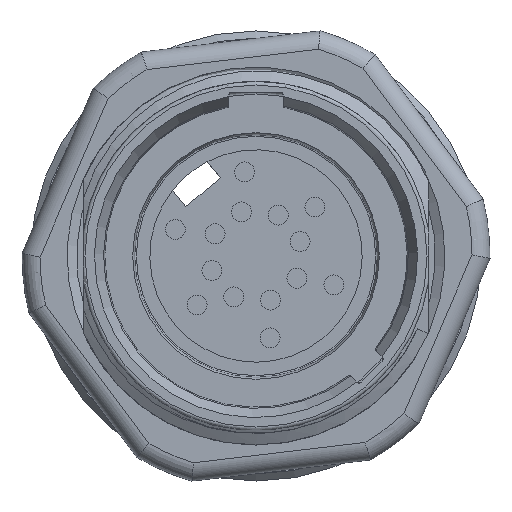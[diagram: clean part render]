
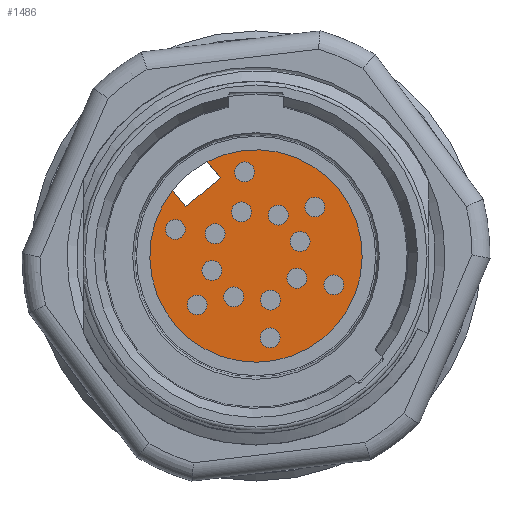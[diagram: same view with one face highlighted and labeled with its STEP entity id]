
A CAD part, left-side view. The second image highlights one B-rep face of the part: STEP entity #1486.
In plain terms, the highlighted planar face has unit normal (-1, 0, 0).
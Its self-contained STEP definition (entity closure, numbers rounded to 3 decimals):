
#1486=ADVANCED_FACE('',(#2575,#2576,#2577,#2578,#2579,#2580,#2581,#2582,
#2583,#2584,#2585,#2586,#2587,#2588,#2589),#1682,.T.);
#1682=PLANE('',#7528);
#2009=LINE('',#29555,#2387);
#2010=LINE('',#29557,#2388);
#2011=LINE('',#29559,#2389);
#2387=VECTOR('',#8960,1.);
#2388=VECTOR('',#8961,1.);
#2389=VECTOR('',#8962,1.);
#2575=FACE_BOUND('',#3122,.T.);
#2576=FACE_BOUND('',#3123,.T.);
#2577=FACE_BOUND('',#3124,.T.);
#2578=FACE_BOUND('',#3125,.T.);
#2579=FACE_BOUND('',#3126,.T.);
#2580=FACE_BOUND('',#3127,.T.);
#2581=FACE_BOUND('',#3128,.T.);
#2582=FACE_BOUND('',#3129,.T.);
#2583=FACE_BOUND('',#3130,.T.);
#2584=FACE_BOUND('',#3131,.T.);
#2585=FACE_BOUND('',#3132,.T.);
#2586=FACE_BOUND('',#3133,.T.);
#2587=FACE_BOUND('',#3134,.T.);
#2588=FACE_BOUND('',#3135,.T.);
#2589=FACE_BOUND('',#3136,.T.);
#3122=EDGE_LOOP('',(#4949));
#3123=EDGE_LOOP('',(#4950));
#3124=EDGE_LOOP('',(#4951));
#3125=EDGE_LOOP('',(#4952));
#3126=EDGE_LOOP('',(#4953));
#3127=EDGE_LOOP('',(#4954));
#3128=EDGE_LOOP('',(#4955));
#3129=EDGE_LOOP('',(#4956));
#3130=EDGE_LOOP('',(#4957));
#3131=EDGE_LOOP('',(#4958));
#3132=EDGE_LOOP('',(#4959));
#3133=EDGE_LOOP('',(#4960));
#3134=EDGE_LOOP('',(#4961));
#3135=EDGE_LOOP('',(#4962));
#3136=EDGE_LOOP('',(#4963,#4964,#4965,#4966));
#4949=ORIENTED_EDGE('',*,*,#6715,.T.);
#4950=ORIENTED_EDGE('',*,*,#6716,.T.);
#4951=ORIENTED_EDGE('',*,*,#6717,.T.);
#4952=ORIENTED_EDGE('',*,*,#6718,.T.);
#4953=ORIENTED_EDGE('',*,*,#6719,.T.);
#4954=ORIENTED_EDGE('',*,*,#6720,.T.);
#4955=ORIENTED_EDGE('',*,*,#6721,.T.);
#4956=ORIENTED_EDGE('',*,*,#6722,.F.);
#4957=ORIENTED_EDGE('',*,*,#6723,.F.);
#4958=ORIENTED_EDGE('',*,*,#6724,.F.);
#4959=ORIENTED_EDGE('',*,*,#6725,.F.);
#4960=ORIENTED_EDGE('',*,*,#6726,.F.);
#4961=ORIENTED_EDGE('',*,*,#6727,.F.);
#4962=ORIENTED_EDGE('',*,*,#6728,.F.);
#4963=ORIENTED_EDGE('',*,*,#6729,.F.);
#4964=ORIENTED_EDGE('',*,*,#6730,.F.);
#4965=ORIENTED_EDGE('',*,*,#6731,.F.);
#4966=ORIENTED_EDGE('',*,*,#6732,.F.);
#5767=VERTEX_POINT('',#29525);
#5768=VERTEX_POINT('',#29527);
#5769=VERTEX_POINT('',#29529);
#5770=VERTEX_POINT('',#29531);
#5771=VERTEX_POINT('',#29533);
#5772=VERTEX_POINT('',#29535);
#5773=VERTEX_POINT('',#29537);
#5774=VERTEX_POINT('',#29539);
#5775=VERTEX_POINT('',#29541);
#5776=VERTEX_POINT('',#29543);
#5777=VERTEX_POINT('',#29545);
#5778=VERTEX_POINT('',#29547);
#5779=VERTEX_POINT('',#29549);
#5780=VERTEX_POINT('',#29551);
#5781=VERTEX_POINT('',#29553);
#5782=VERTEX_POINT('',#29554);
#5783=VERTEX_POINT('',#29556);
#5784=VERTEX_POINT('',#29558);
#6715=EDGE_CURVE('',#5767,#5767,#6982,.T.);
#6716=EDGE_CURVE('',#5768,#5768,#6983,.T.);
#6717=EDGE_CURVE('',#5769,#5769,#6984,.T.);
#6718=EDGE_CURVE('',#5770,#5770,#6985,.T.);
#6719=EDGE_CURVE('',#5771,#5771,#6986,.T.);
#6720=EDGE_CURVE('',#5772,#5772,#6987,.T.);
#6721=EDGE_CURVE('',#5773,#5773,#6988,.T.);
#6722=EDGE_CURVE('',#5774,#5774,#6989,.T.);
#6723=EDGE_CURVE('',#5775,#5775,#6990,.T.);
#6724=EDGE_CURVE('',#5776,#5776,#6991,.T.);
#6725=EDGE_CURVE('',#5777,#5777,#6992,.T.);
#6726=EDGE_CURVE('',#5778,#5778,#6993,.T.);
#6727=EDGE_CURVE('',#5779,#5779,#6994,.T.);
#6728=EDGE_CURVE('',#5780,#5780,#6995,.T.);
#6729=EDGE_CURVE('',#5781,#5782,#6996,.T.);
#6730=EDGE_CURVE('',#5783,#5781,#2009,.T.);
#6731=EDGE_CURVE('',#5784,#5783,#2010,.T.);
#6732=EDGE_CURVE('',#5782,#5784,#2011,.T.);
#6982=CIRCLE('',#7513,0.55);
#6983=CIRCLE('',#7514,0.55);
#6984=CIRCLE('',#7515,0.55);
#6985=CIRCLE('',#7516,0.55);
#6986=CIRCLE('',#7517,0.55);
#6987=CIRCLE('',#7518,0.55);
#6988=CIRCLE('',#7519,0.55);
#6989=CIRCLE('',#7520,0.55);
#6990=CIRCLE('',#7521,0.55);
#6991=CIRCLE('',#7522,0.55);
#6992=CIRCLE('',#7523,0.55);
#6993=CIRCLE('',#7524,0.55);
#6994=CIRCLE('',#7525,0.55);
#6995=CIRCLE('',#7526,0.55);
#6996=CIRCLE('',#7527,5.9);
#7513=AXIS2_PLACEMENT_3D('',#29524,#8930,#8931);
#7514=AXIS2_PLACEMENT_3D('',#29526,#8932,#8933);
#7515=AXIS2_PLACEMENT_3D('',#29528,#8934,#8935);
#7516=AXIS2_PLACEMENT_3D('',#29530,#8936,#8937);
#7517=AXIS2_PLACEMENT_3D('',#29532,#8938,#8939);
#7518=AXIS2_PLACEMENT_3D('',#29534,#8940,#8941);
#7519=AXIS2_PLACEMENT_3D('',#29536,#8942,#8943);
#7520=AXIS2_PLACEMENT_3D('',#29538,#8944,#8945);
#7521=AXIS2_PLACEMENT_3D('',#29540,#8946,#8947);
#7522=AXIS2_PLACEMENT_3D('',#29542,#8948,#8949);
#7523=AXIS2_PLACEMENT_3D('',#29544,#8950,#8951);
#7524=AXIS2_PLACEMENT_3D('',#29546,#8952,#8953);
#7525=AXIS2_PLACEMENT_3D('',#29548,#8954,#8955);
#7526=AXIS2_PLACEMENT_3D('',#29550,#8956,#8957);
#7527=AXIS2_PLACEMENT_3D('',#29552,#8958,#8959);
#7528=AXIS2_PLACEMENT_3D('',#29560,#8963,#8964);
#8930=DIRECTION('',(1.,0.,0.));
#8931=DIRECTION('',(0.,0.639,0.769));
#8932=DIRECTION('',(1.,0.,0.));
#8933=DIRECTION('',(0.,0.639,0.769));
#8934=DIRECTION('',(1.,0.,0.));
#8935=DIRECTION('',(0.,0.639,0.769));
#8936=DIRECTION('',(1.,0.,0.));
#8937=DIRECTION('',(0.,0.639,0.769));
#8938=DIRECTION('',(1.,0.,0.));
#8939=DIRECTION('',(0.,0.639,0.769));
#8940=DIRECTION('',(1.,0.,0.));
#8941=DIRECTION('',(0.,0.639,0.769));
#8942=DIRECTION('',(1.,0.,0.));
#8943=DIRECTION('',(0.,0.639,0.769));
#8944=DIRECTION('',(-1.,0.,0.));
#8945=DIRECTION('',(0.,0.639,0.769));
#8946=DIRECTION('',(-1.,0.,0.));
#8947=DIRECTION('',(0.,0.639,0.769));
#8948=DIRECTION('',(-1.,0.,0.));
#8949=DIRECTION('',(0.,0.639,0.769));
#8950=DIRECTION('',(-1.,0.,0.));
#8951=DIRECTION('',(0.,0.639,0.769));
#8952=DIRECTION('',(-1.,0.,0.));
#8953=DIRECTION('',(0.,0.639,0.769));
#8954=DIRECTION('',(-1.,0.,0.));
#8955=DIRECTION('',(0.,0.639,0.769));
#8956=DIRECTION('',(-1.,0.,0.));
#8957=DIRECTION('',(0.,0.639,0.769));
#8958=DIRECTION('',(1.,0.,0.));
#8959=DIRECTION('',(0.,-0.639,-0.769));
#8960=DIRECTION('',(0.,0.639,0.769));
#8961=DIRECTION('',(0.,-0.769,0.639));
#8962=DIRECTION('',(0.,-0.639,-0.769));
#8963=DIRECTION('',(-1.,0.,0.));
#8964=DIRECTION('',(0.,0.639,0.769));
#29524=CARTESIAN_POINT('',(9.4,-0.804,-2.453));
#29525=CARTESIAN_POINT('',(9.4,-0.452,-2.03));
#29526=CARTESIAN_POINT('',(9.4,2.265,1.238));
#29527=CARTESIAN_POINT('',(9.4,2.616,1.661));
#29528=CARTESIAN_POINT('',(9.4,4.48,1.478));
#29529=CARTESIAN_POINT('',(9.4,4.831,1.9));
#29530=CARTESIAN_POINT('',(9.4,2.453,-0.804));
#29531=CARTESIAN_POINT('',(9.4,2.804,-0.381));
#29532=CARTESIAN_POINT('',(9.4,3.268,-2.717));
#29533=CARTESIAN_POINT('',(9.4,3.62,-2.294));
#29534=CARTESIAN_POINT('',(9.4,1.238,-2.265));
#29535=CARTESIAN_POINT('',(9.4,1.59,-1.842));
#29536=CARTESIAN_POINT('',(9.4,-0.789,-4.546));
#29537=CARTESIAN_POINT('',(9.4,-0.437,-4.123));
#29538=CARTESIAN_POINT('',(9.4,-2.265,-1.238));
#29539=CARTESIAN_POINT('',(9.4,-1.913,-0.815));
#29540=CARTESIAN_POINT('',(9.4,0.804,2.453));
#29541=CARTESIAN_POINT('',(9.4,1.155,2.876));
#29542=CARTESIAN_POINT('',(9.4,0.635,4.674));
#29543=CARTESIAN_POINT('',(9.4,0.986,5.097));
#29544=CARTESIAN_POINT('',(9.4,-1.238,2.265));
#29545=CARTESIAN_POINT('',(9.4,-0.887,2.688));
#29546=CARTESIAN_POINT('',(9.4,-3.268,2.717));
#29547=CARTESIAN_POINT('',(9.4,-2.916,3.14));
#29548=CARTESIAN_POINT('',(9.4,-2.453,0.804));
#29549=CARTESIAN_POINT('',(9.4,-2.101,1.227));
#29550=CARTESIAN_POINT('',(9.4,-4.326,-1.605));
#29551=CARTESIAN_POINT('',(9.4,-3.974,-1.182));
#29552=CARTESIAN_POINT('',(9.4,0.,0.));
#29553=CARTESIAN_POINT('',(9.4,2.725,5.233));
#29554=CARTESIAN_POINT('',(9.4,4.647,3.635));
#29555=CARTESIAN_POINT('',(9.4,1.98,4.336));
#29556=CARTESIAN_POINT('',(9.4,1.98,4.336));
#29557=CARTESIAN_POINT('',(9.4,3.902,2.738));
#29558=CARTESIAN_POINT('',(9.4,3.902,2.738));
#29559=CARTESIAN_POINT('',(9.4,4.647,3.635));
#29560=CARTESIAN_POINT('',(9.4,0.,0.));
